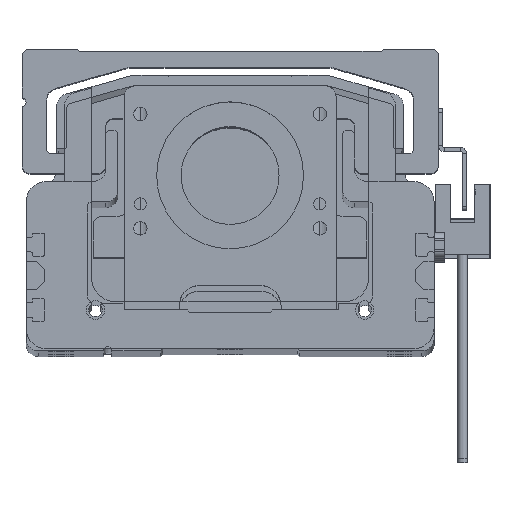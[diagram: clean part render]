
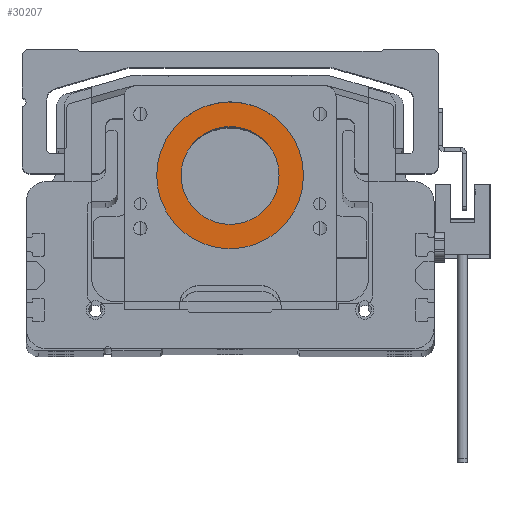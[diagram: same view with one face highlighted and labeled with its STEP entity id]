
A CAD part, top view. The second image highlights one B-rep face of the part: STEP entity #30207.
In plain terms, the highlighted planar face has unit normal (0, 0, 1).
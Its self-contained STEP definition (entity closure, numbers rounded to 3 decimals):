
#423 = CIRCLE ( 'NONE', #21587, 18. ) ;
#850 = CARTESIAN_POINT ( 'NONE',  ( 0., 33., 2.5 ) ) ;
#1563 = EDGE_CURVE ( 'NONE', #25342, #24531, #423, .T. ) ;
#2369 = CARTESIAN_POINT ( 'NONE',  ( 18., 33., 2.5 ) ) ;
#3589 = DIRECTION ( 'NONE',  ( 0., 0., 1. ) ) ;
#6825 = ORIENTED_EDGE ( 'NONE', *, *, #1563, .T. ) ;
#7114 = FACE_OUTER_BOUND ( 'NONE', #29822, .T. ) ;
#7922 = CARTESIAN_POINT ( 'NONE',  ( -12., 33., 2.5 ) ) ;
#8019 = AXIS2_PLACEMENT_3D ( 'NONE', #28549, #28546, #28513 ) ;
#8499 = DIRECTION ( 'NONE',  ( 0., 0., 1. ) ) ;
#8569 = DIRECTION ( 'NONE',  ( 1., 0., 0. ) ) ;
#8882 = CARTESIAN_POINT ( 'NONE',  ( 0., 33., 2.5 ) ) ;
#9792 = VERTEX_POINT ( 'NONE', #7922 ) ;
#10937 = DIRECTION ( 'NONE',  ( 1., 0., 0. ) ) ;
#11970 = EDGE_CURVE ( 'NONE', #9792, #17892, #31623, .T. ) ;
#12292 = DIRECTION ( 'NONE',  ( 0., 0., 1. ) ) ;
#12796 = ORIENTED_EDGE ( 'NONE', *, *, #11970, .F. ) ;
#13332 = AXIS2_PLACEMENT_3D ( 'NONE', #28074, #13390, #30475 ) ;
#13390 = DIRECTION ( 'NONE',  ( 0., 0., 1. ) ) ;
#13829 = CARTESIAN_POINT ( 'NONE',  ( -18., 33., 2.5 ) ) ;
#15213 = AXIS2_PLACEMENT_3D ( 'NONE', #850, #3589, #21246 ) ;
#15624 = EDGE_CURVE ( 'NONE', #24531, #25342, #22050, .T. ) ;
#16887 = ORIENTED_EDGE ( 'NONE', *, *, #15624, .T. ) ;
#17892 = VERTEX_POINT ( 'NONE', #19353 ) ;
#18800 = PLANE ( 'NONE',  #15213 ) ;
#19353 = CARTESIAN_POINT ( 'NONE',  ( 12., 33., 2.5 ) ) ;
#21246 = DIRECTION ( 'NONE',  ( 1., 0., 0. ) ) ;
#21587 = AXIS2_PLACEMENT_3D ( 'NONE', #25669, #12292, #10937 ) ;
#22050 = CIRCLE ( 'NONE', #26093, 18. ) ;
#22818 = EDGE_CURVE ( 'NONE', #17892, #9792, #28638, .T. ) ;
#24051 = ORIENTED_EDGE ( 'NONE', *, *, #22818, .F. ) ;
#24531 = VERTEX_POINT ( 'NONE', #2369 ) ;
#25342 = VERTEX_POINT ( 'NONE', #13829 ) ;
#25669 = CARTESIAN_POINT ( 'NONE',  ( 0., 33., 2.5 ) ) ;
#26093 = AXIS2_PLACEMENT_3D ( 'NONE', #8882, #8499, #8569 ) ;
#26800 = EDGE_LOOP ( 'NONE', ( #24051, #12796 ) ) ;
#26886 = FACE_BOUND ( 'NONE', #26800, .T. ) ;
#28074 = CARTESIAN_POINT ( 'NONE',  ( 0., 33., 2.5 ) ) ;
#28513 = DIRECTION ( 'NONE',  ( 1., 0., 0. ) ) ;
#28546 = DIRECTION ( 'NONE',  ( 0., 0., 1. ) ) ;
#28549 = CARTESIAN_POINT ( 'NONE',  ( 0., 33., 2.5 ) ) ;
#28638 = CIRCLE ( 'NONE', #13332, 12. ) ;
#29822 = EDGE_LOOP ( 'NONE', ( #16887, #6825 ) ) ;
#30207 = ADVANCED_FACE ( 'NONE', ( #7114, #26886 ), #18800, .T. ) ;
#30475 = DIRECTION ( 'NONE',  ( 1., 0., 0. ) ) ;
#31623 = CIRCLE ( 'NONE', #8019, 12. ) ;
